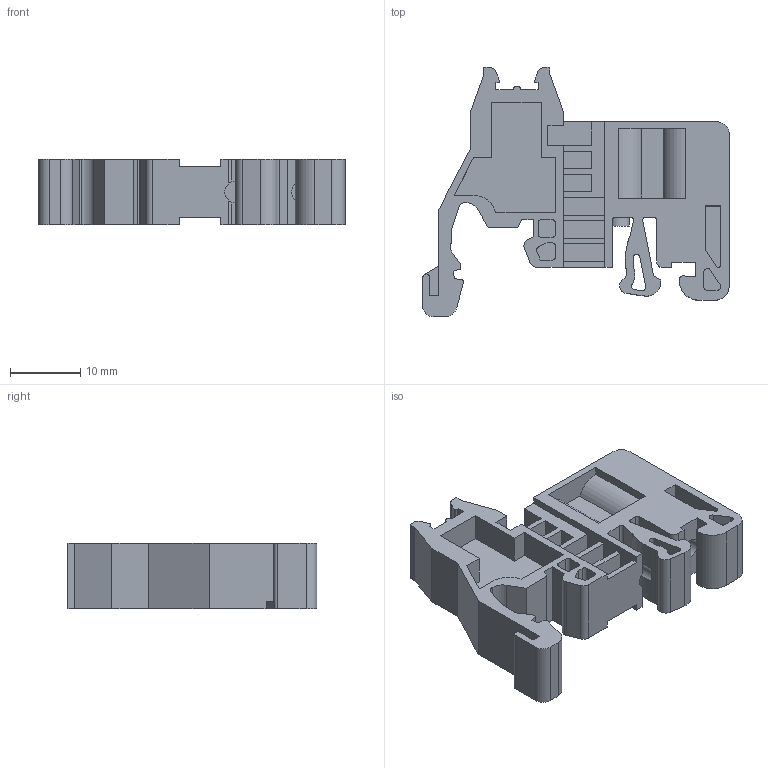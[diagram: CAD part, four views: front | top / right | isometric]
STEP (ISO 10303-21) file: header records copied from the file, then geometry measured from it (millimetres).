
FILE_DESCRIPTION(/* description */ (''),/* implementation_level */ '2;1');
FILE_NAME(/* name */ 'E-1.stp',/* time_stamp */ '2023-02-16T11:08:38+08:00',/* author */ (''),/* organization */ (''),/* preprocessor_version */ 'ST-DEVELOPER v16.7',/* originating_system */ 'SIEMENS PLM Software NX 12.0',/* authorisation */ '');
FILE_SCHEMA (('AP203_CONFIGURATION_CONTROLLED_3D_DESIGN_OF_MECHANICAL_PARTS_AND_ASSEMBLIES_MIM_LF { 1 0 10303 403 2 1 2}'));
Length unit declared in the file: millimetre
Products named in the file (1): Admi348C08DB5foc
Bounding box: 43.6 x 35.5 x 9.3 mm (x, y, z)
Volume: 4921.9 mm3; surface area: 6058.6 mm2
Topology: 1 solids, 1 shells, 297 faces, 834 edges, 556 vertices
Faces by surface type: plane 221, cylinder 76
Full cylindrical faces by diameter (mm): 5.4 x2
Entity records: 9649 total; most frequent: CARTESIAN_POINT 1725, ORIENTED_EDGE 1660, DIRECTION 1589, EDGE_CURVE 830, LINE 661, VECTOR 661, VERTEX_POINT 554, AXIS2_PLACEMENT_3D 464
